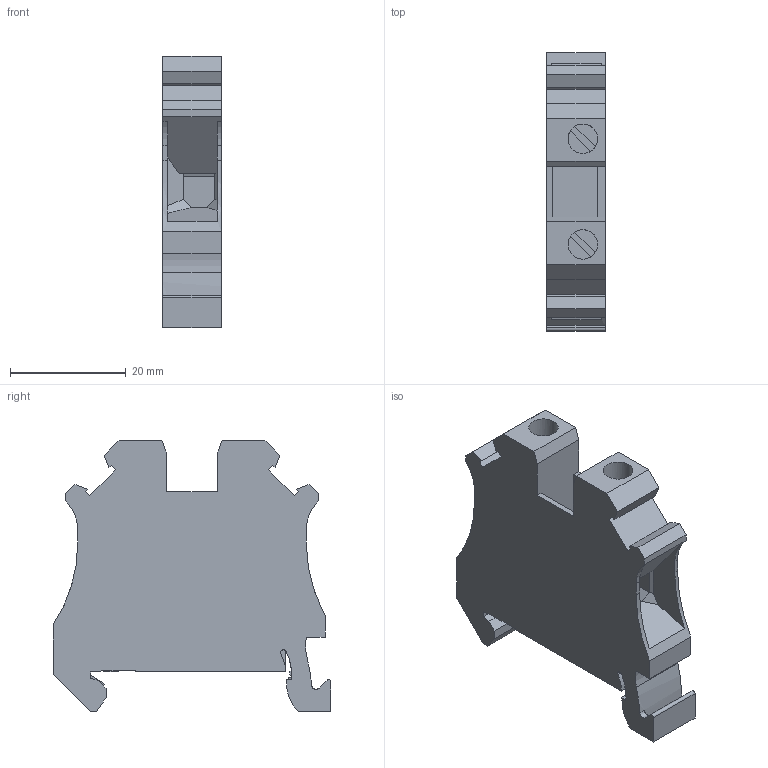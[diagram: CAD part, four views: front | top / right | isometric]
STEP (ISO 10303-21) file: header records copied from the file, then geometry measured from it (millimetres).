
FILE_DESCRIPTION( ('This file contains a STEP AP42 implementation' ,'as created by ZW3D STEP Interface translator.') ,'2;1' );
FILE_NAME( 'RUT10-PE.stp' ,'23 6 7.173957', (''), ('ZWCAD Software Co.'), 'Version 1.0', 'ZW3D to STEP translator', '' );
FILE_SCHEMA(('AUTOMOTIVE_DESIGN { 1 0 10303 214 1 1 1 1 }'));
Length unit declared in the file: millimetre
Products named in the file (2): 0; 3044173
Bounding box: 10.15 x 48 x 46.85 mm (x, y, z)
Volume: 13371.3 mm3; surface area: 6915.4 mm2
Topology: 1 solids, 1 shells, 146 faces, 415 edges, 273 vertices
Faces by surface type: plane 126, cylinder 20
Full cylindrical faces by diameter (mm): 5.1 x2
Entity records: 4888 total; most frequent: CARTESIAN_POINT 835, ORIENTED_EDGE 830, DIRECTION 769, EDGE_CURVE 415, VECTOR 355, LINE 355, VERTEX_POINT 273, AXIS2_PLACEMENT_3D 207
